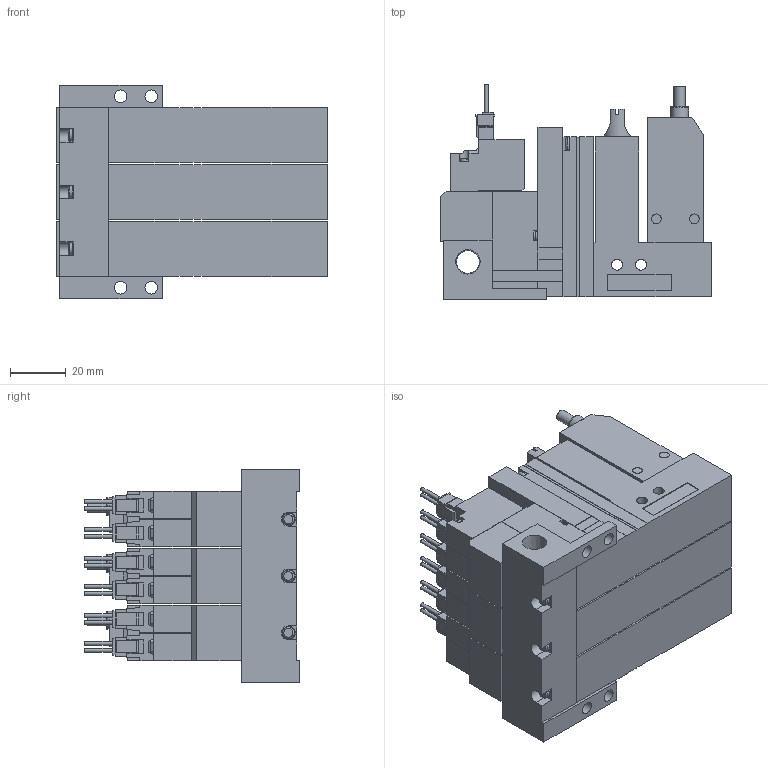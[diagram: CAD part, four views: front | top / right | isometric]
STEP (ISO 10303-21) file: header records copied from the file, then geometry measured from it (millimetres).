
FILE_DESCRIPTION(('STEP AP203'),'1');
FILE_NAME('ABS_ABPLC5BLR303.stp','2025-02-18T23:11:52',(' '),(' '),'Spatial InterOp 3D',' ',' ');
FILE_SCHEMA(('CONFIG_CONTROL_DESIGN'));
Length unit declared in the file: millimetre
Products named in the file (5): BMC22M※※※※ABS_ABPLC5BLR303; Solenoid valve B; Pressure sensor ABSLC; Unit LC; Base MR30R
Assembly tree (10 placements, depth 2):
  BMC22M※※※※ABS_ABPLC5BLR303
    Solenoid valve B  x3
    Pressure sensor ABSLC  x3
    Unit LC  x3
    Base MR30R
Bounding box: 97.6 x 77.45 x 77 mm (x, y, z)
Volume: 307422.4 mm3; surface area: 81182.3 mm2
Topology: 10 solids, 10 shells, 1182 faces, 3173 edges, 2086 vertices
Faces by surface type: plane 1004, cylinder 137, cone 23, torus 18
Full cylindrical faces by diameter (mm): 1.4 x12, 2.5 x3, 3 x12, 3.5 x18, 3.6 x3, 4 x9, 4.134 x3, 4.5 x4, 5.2 x3, 6 x3, 6.5 x3, 6.6 x3, 8.279 x1
Entity records: 13660 total; most frequent: CARTESIAN_POINT 2578, ORIENTED_EDGE 2180, DIRECTION 2159, EDGE_CURVE 1090, LINE 909, VECTOR 909, VERTEX_POINT 753, AXIS2_PLACEMENT_3D 625
